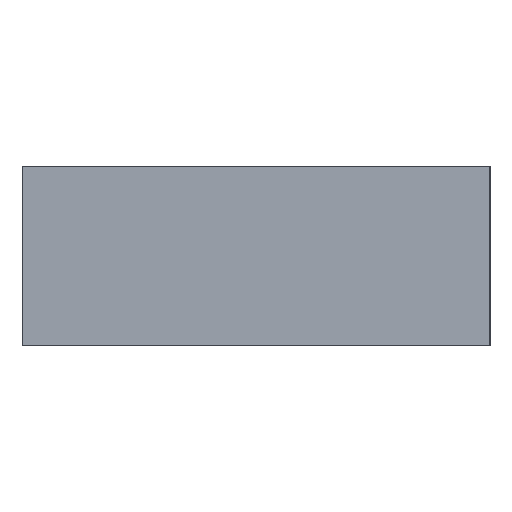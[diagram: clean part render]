
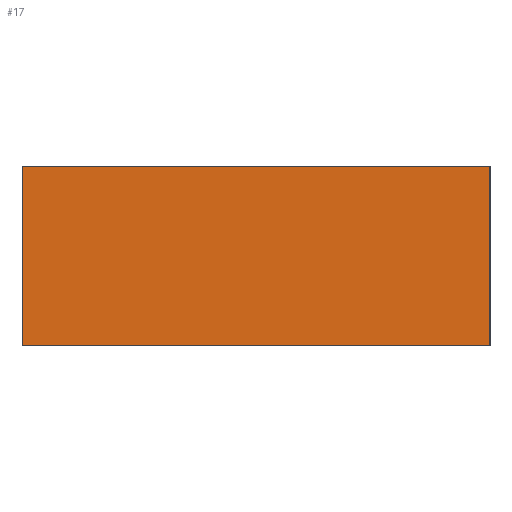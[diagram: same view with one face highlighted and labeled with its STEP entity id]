
A CAD part, left-side view. The second image highlights one B-rep face of the part: STEP entity #17.
In plain terms, the highlighted planar face has unit normal (-1, 0, 0).
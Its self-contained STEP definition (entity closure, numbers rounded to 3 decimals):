
#17 = ADVANCED_FACE('',(#18),#32,.F.);
#18 = FACE_BOUND('',#19,.F.);
#19 = EDGE_LOOP('',(#20,#55,#83,#111));
#20 = ORIENTED_EDGE('',*,*,#21,.F.);
#21 = EDGE_CURVE('',#22,#24,#26,.T.);
#22 = VERTEX_POINT('',#23);
#23 = CARTESIAN_POINT('',(-5.76,-1.485,0.));
#24 = VERTEX_POINT('',#25);
#25 = CARTESIAN_POINT('',(-5.76,-1.485,1.14));
#26 = SURFACE_CURVE('',#27,(#31,#43),.PCURVE_S1.);
#27 = LINE('',#28,#29);
#28 = CARTESIAN_POINT('',(-5.76,-1.485,0.));
#29 = VECTOR('',#30,1.);
#30 = DIRECTION('',(0.,0.,1.));
#31 = PCURVE('',#32,#37);
#32 = PLANE('',#33);
#33 = AXIS2_PLACEMENT_3D('',#34,#35,#36);
#34 = CARTESIAN_POINT('',(-5.76,-1.485,0.));
#35 = DIRECTION('',(1.,0.,-0.));
#36 = DIRECTION('',(0.,0.,1.));
#37 = DEFINITIONAL_REPRESENTATION('',(#38),#42);
#38 = LINE('',#39,#40);
#39 = CARTESIAN_POINT('',(0.,0.));
#40 = VECTOR('',#41,1.);
#41 = DIRECTION('',(1.,0.));
#42 = ( GEOMETRIC_REPRESENTATION_CONTEXT(2) 
PARAMETRIC_REPRESENTATION_CONTEXT() REPRESENTATION_CONTEXT('2D SPACE',''
  ) );
#43 = PCURVE('',#44,#49);
#44 = PLANE('',#45);
#45 = AXIS2_PLACEMENT_3D('',#46,#47,#48);
#46 = CARTESIAN_POINT('',(-5.76,-1.485,0.));
#47 = DIRECTION('',(-0.,1.,0.));
#48 = DIRECTION('',(0.,0.,1.));
#49 = DEFINITIONAL_REPRESENTATION('',(#50),#54);
#50 = LINE('',#51,#52);
#51 = CARTESIAN_POINT('',(0.,0.));
#52 = VECTOR('',#53,1.);
#53 = DIRECTION('',(1.,0.));
#54 = ( GEOMETRIC_REPRESENTATION_CONTEXT(2) 
PARAMETRIC_REPRESENTATION_CONTEXT() REPRESENTATION_CONTEXT('2D SPACE',''
  ) );
#55 = ORIENTED_EDGE('',*,*,#56,.T.);
#56 = EDGE_CURVE('',#22,#57,#59,.T.);
#57 = VERTEX_POINT('',#58);
#58 = CARTESIAN_POINT('',(-5.76,1.485,0.));
#59 = SURFACE_CURVE('',#60,(#64,#71),.PCURVE_S1.);
#60 = LINE('',#61,#62);
#61 = CARTESIAN_POINT('',(-5.76,-1.485,0.));
#62 = VECTOR('',#63,1.);
#63 = DIRECTION('',(-0.,1.,0.));
#64 = PCURVE('',#32,#65);
#65 = DEFINITIONAL_REPRESENTATION('',(#66),#70);
#66 = LINE('',#67,#68);
#67 = CARTESIAN_POINT('',(0.,0.));
#68 = VECTOR('',#69,1.);
#69 = DIRECTION('',(0.,-1.));
#70 = ( GEOMETRIC_REPRESENTATION_CONTEXT(2) 
PARAMETRIC_REPRESENTATION_CONTEXT() REPRESENTATION_CONTEXT('2D SPACE',''
  ) );
#71 = PCURVE('',#72,#77);
#72 = PLANE('',#73);
#73 = AXIS2_PLACEMENT_3D('',#74,#75,#76);
#74 = CARTESIAN_POINT('',(-5.76,-1.485,0.));
#75 = DIRECTION('',(0.,0.,1.));
#76 = DIRECTION('',(1.,0.,-0.));
#77 = DEFINITIONAL_REPRESENTATION('',(#78),#82);
#78 = LINE('',#79,#80);
#79 = CARTESIAN_POINT('',(0.,0.));
#80 = VECTOR('',#81,1.);
#81 = DIRECTION('',(0.,1.));
#82 = ( GEOMETRIC_REPRESENTATION_CONTEXT(2) 
PARAMETRIC_REPRESENTATION_CONTEXT() REPRESENTATION_CONTEXT('2D SPACE',''
  ) );
#83 = ORIENTED_EDGE('',*,*,#84,.T.);
#84 = EDGE_CURVE('',#57,#85,#87,.T.);
#85 = VERTEX_POINT('',#86);
#86 = CARTESIAN_POINT('',(-5.76,1.485,1.14));
#87 = SURFACE_CURVE('',#88,(#92,#99),.PCURVE_S1.);
#88 = LINE('',#89,#90);
#89 = CARTESIAN_POINT('',(-5.76,1.485,0.));
#90 = VECTOR('',#91,1.);
#91 = DIRECTION('',(0.,0.,1.));
#92 = PCURVE('',#32,#93);
#93 = DEFINITIONAL_REPRESENTATION('',(#94),#98);
#94 = LINE('',#95,#96);
#95 = CARTESIAN_POINT('',(0.,-2.97));
#96 = VECTOR('',#97,1.);
#97 = DIRECTION('',(1.,0.));
#98 = ( GEOMETRIC_REPRESENTATION_CONTEXT(2) 
PARAMETRIC_REPRESENTATION_CONTEXT() REPRESENTATION_CONTEXT('2D SPACE',''
  ) );
#99 = PCURVE('',#100,#105);
#100 = PLANE('',#101);
#101 = AXIS2_PLACEMENT_3D('',#102,#103,#104);
#102 = CARTESIAN_POINT('',(-5.76,1.485,0.));
#103 = DIRECTION('',(-0.,1.,0.));
#104 = DIRECTION('',(0.,0.,1.));
#105 = DEFINITIONAL_REPRESENTATION('',(#106),#110);
#106 = LINE('',#107,#108);
#107 = CARTESIAN_POINT('',(0.,0.));
#108 = VECTOR('',#109,1.);
#109 = DIRECTION('',(1.,0.));
#110 = ( GEOMETRIC_REPRESENTATION_CONTEXT(2) 
PARAMETRIC_REPRESENTATION_CONTEXT() REPRESENTATION_CONTEXT('2D SPACE',''
  ) );
#111 = ORIENTED_EDGE('',*,*,#112,.F.);
#112 = EDGE_CURVE('',#24,#85,#113,.T.);
#113 = SURFACE_CURVE('',#114,(#118,#125),.PCURVE_S1.);
#114 = LINE('',#115,#116);
#115 = CARTESIAN_POINT('',(-5.76,-1.485,1.14));
#116 = VECTOR('',#117,1.);
#117 = DIRECTION('',(-0.,1.,0.));
#118 = PCURVE('',#32,#119);
#119 = DEFINITIONAL_REPRESENTATION('',(#120),#124);
#120 = LINE('',#121,#122);
#121 = CARTESIAN_POINT('',(1.14,0.));
#122 = VECTOR('',#123,1.);
#123 = DIRECTION('',(0.,-1.));
#124 = ( GEOMETRIC_REPRESENTATION_CONTEXT(2) 
PARAMETRIC_REPRESENTATION_CONTEXT() REPRESENTATION_CONTEXT('2D SPACE',''
  ) );
#125 = PCURVE('',#126,#131);
#126 = PLANE('',#127);
#127 = AXIS2_PLACEMENT_3D('',#128,#129,#130);
#128 = CARTESIAN_POINT('',(-5.76,-1.485,1.14));
#129 = DIRECTION('',(0.,0.,1.));
#130 = DIRECTION('',(1.,0.,-0.));
#131 = DEFINITIONAL_REPRESENTATION('',(#132),#136);
#132 = LINE('',#133,#134);
#133 = CARTESIAN_POINT('',(0.,0.));
#134 = VECTOR('',#135,1.);
#135 = DIRECTION('',(0.,1.));
#136 = ( GEOMETRIC_REPRESENTATION_CONTEXT(2) 
PARAMETRIC_REPRESENTATION_CONTEXT() REPRESENTATION_CONTEXT('2D SPACE',''
  ) );
